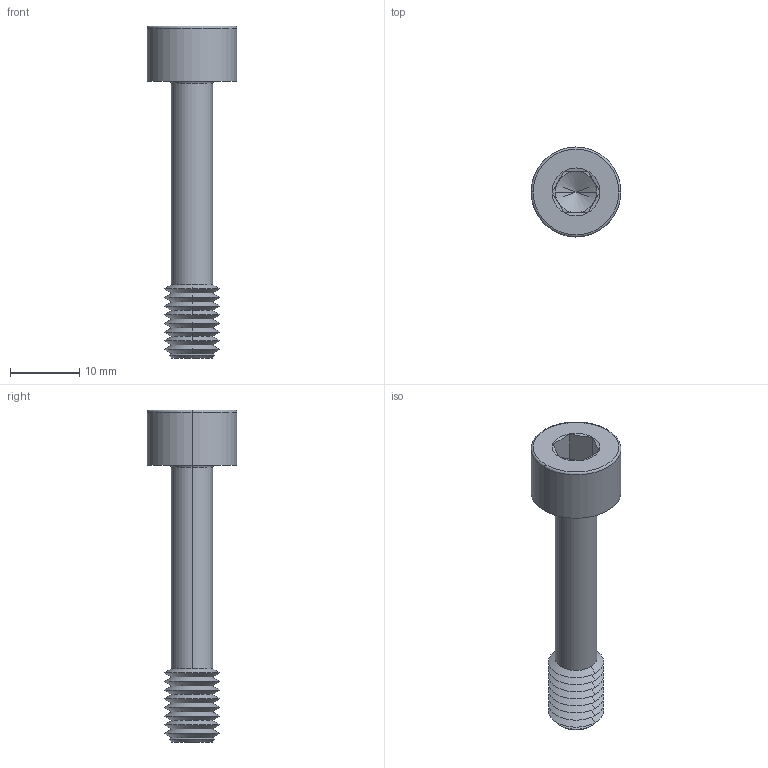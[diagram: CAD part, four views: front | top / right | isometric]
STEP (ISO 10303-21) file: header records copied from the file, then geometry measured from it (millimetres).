
FILE_DESCRIPTION (( 'STEP AP203' ), '1' );
FILE_NAME ('P0154.080-040-BL.step', '2024-06-17T11:32:04', ( '' ), ( '' ), 'SwSTEP 2.0', 'SolidWorks 2019', '' );
FILE_SCHEMA (( 'CONFIG_CONTROL_DESIGN' ));
Length unit declared in the file: millimetre
Products named in the file (1): P0154.080-040-BL
Bounding box: 13 x 13 x 48 mm (x, y, z)
Volume: 2086.4 mm3; surface area: 1718.1 mm2
Topology: 1 solids, 1 shells, 67 faces, 136 edges, 71 vertices
Faces by surface type: cone 44, plane 15, torus 4, cylinder 4
Entity records: 1787 total; most frequent: DIRECTION 332, CARTESIAN_POINT 299, ORIENTED_EDGE 268, AXIS2_PLACEMENT_3D 136, EDGE_CURVE 134, VERTEX_POINT 71, EDGE_LOOP 69, CIRCLE 68
